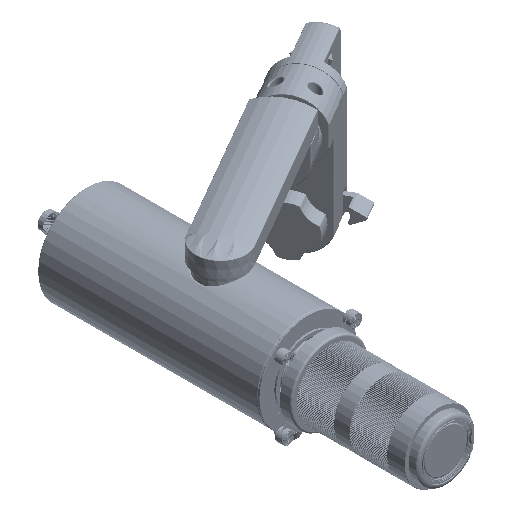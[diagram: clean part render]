
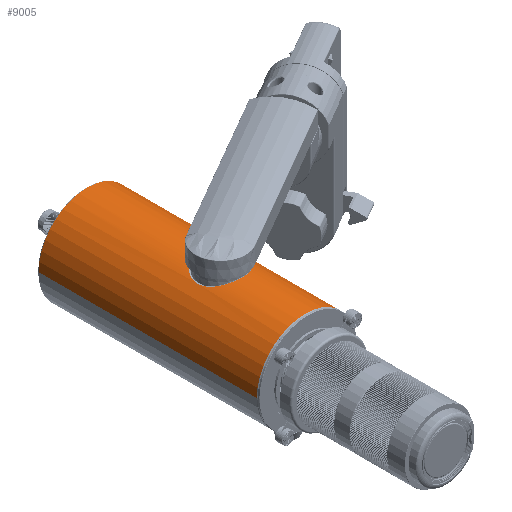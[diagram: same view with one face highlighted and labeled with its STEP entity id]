
A CAD part, isometric view. The second image highlights one B-rep face of the part: STEP entity #9005.
In plain terms, the highlighted cylindrical face has radius 27.5 mm (diameter 55 mm), a partial arc.
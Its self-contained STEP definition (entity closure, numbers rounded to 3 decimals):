
#2524=CARTESIAN_POINT('',(0.,123.5,0.));
#2525=DIRECTION('',(0.,1.,0.));
#2526=DIRECTION('',(-1.,0.,0.));
#2527=AXIS2_PLACEMENT_3D('',#2524,#2525,#2526);
#2529=CARTESIAN_POINT('',(0.,0.5,0.));
#2530=DIRECTION('',(0.,-1.,0.));
#2531=DIRECTION('',(1.,0.,0.));
#2532=AXIS2_PLACEMENT_3D('',#2529,#2530,#2531);
#2534=DIRECTION('',(0.,1.,0.));
#2535=VECTOR('',#2534,123.);
#2536=CARTESIAN_POINT('',(-27.5,0.5,0.));
#2537=LINE('',#2536,#2535);
#2538=CARTESIAN_POINT('',(12.731,48.5,24.375));
#2539=CARTESIAN_POINT('',(12.731,48.154,24.375));
#2540=CARTESIAN_POINT('',(12.702,47.47,24.391));
#2541=CARTESIAN_POINT('',(12.578,46.482,24.455));
#2542=CARTESIAN_POINT('',(12.372,45.496,24.56));
#2543=CARTESIAN_POINT('',(12.106,44.595,24.693));
#2544=CARTESIAN_POINT('',(11.771,43.702,24.855));
#2545=CARTESIAN_POINT('',(11.319,42.742,25.064));
#2546=CARTESIAN_POINT('',(10.726,41.728,25.326));
#2547=CARTESIAN_POINT('',(9.959,40.672,25.639));
#2548=CARTESIAN_POINT('',(8.972,39.587,26.004));
#2549=CARTESIAN_POINT('',(7.717,38.508,26.408));
#2550=CARTESIAN_POINT('',(6.137,37.489,26.827));
#2551=CARTESIAN_POINT('',(4.208,36.638,27.203));
#2552=CARTESIAN_POINT('',(2.069,36.103,27.451));
#2553=CARTESIAN_POINT('',(-0.129,35.938,
27.529));
#2554=CARTESIAN_POINT('',(-2.321,36.148,27.43));
#2555=CARTESIAN_POINT('',(-4.333,36.693,27.178));
#2556=CARTESIAN_POINT('',(-6.03,37.446,26.846));
#2557=CARTESIAN_POINT('',(-7.435,38.314,26.487));
#2558=CARTESIAN_POINT('',(-8.591,39.24,26.131));
#2559=CARTESIAN_POINT('',(-9.532,40.182,25.801));
#2560=CARTESIAN_POINT('',(-10.292,41.112,25.505));
#2561=CARTESIAN_POINT('',(-10.906,42.022,25.248));
#2562=CARTESIAN_POINT('',(-11.392,42.893,25.031));
#2563=CARTESIAN_POINT('',(-11.773,43.715,24.854));
#2564=CARTESIAN_POINT('',(-12.086,44.535,24.703));
#2565=CARTESIAN_POINT('',(-12.348,45.41,24.572));
#2566=CARTESIAN_POINT('',(-12.551,46.332,24.469));
#2567=CARTESIAN_POINT('',(-12.691,47.329,24.396));
#2568=CARTESIAN_POINT('',(-12.731,48.096,24.375));
#2569=CARTESIAN_POINT('',(-12.731,48.5,24.375));
#2571=CARTESIAN_POINT('',(-12.731,48.5,24.375));
#2572=CARTESIAN_POINT('',(-12.731,48.846,24.375));
#2573=CARTESIAN_POINT('',(-12.702,49.53,24.391));
#2574=CARTESIAN_POINT('',(-12.578,50.518,24.455));
#2575=CARTESIAN_POINT('',(-12.372,51.504,24.56));
#2576=CARTESIAN_POINT('',(-12.106,52.405,24.693));
#2577=CARTESIAN_POINT('',(-11.771,53.298,24.855));
#2578=CARTESIAN_POINT('',(-11.319,54.258,25.064));
#2579=CARTESIAN_POINT('',(-10.726,55.272,25.326));
#2580=CARTESIAN_POINT('',(-9.959,56.328,25.639));
#2581=CARTESIAN_POINT('',(-8.972,57.413,26.004));
#2582=CARTESIAN_POINT('',(-7.718,58.492,26.408));
#2583=CARTESIAN_POINT('',(-6.138,59.51,26.826));
#2584=CARTESIAN_POINT('',(-4.209,60.362,27.203));
#2585=CARTESIAN_POINT('',(-2.071,60.897,27.451));
#2586=CARTESIAN_POINT('',(0.127,61.062,27.529));
#2587=CARTESIAN_POINT('',(2.32,60.852,27.43));
#2588=CARTESIAN_POINT('',(4.331,60.308,27.179));
#2589=CARTESIAN_POINT('',(6.03,59.554,26.846));
#2590=CARTESIAN_POINT('',(7.435,58.686,26.487));
#2591=CARTESIAN_POINT('',(8.59,57.76,26.132));
#2592=CARTESIAN_POINT('',(9.531,56.818,25.801));
#2593=CARTESIAN_POINT('',(10.292,55.888,25.505));
#2594=CARTESIAN_POINT('',(10.905,54.978,25.248));
#2595=CARTESIAN_POINT('',(11.392,54.107,25.031));
#2596=CARTESIAN_POINT('',(11.773,53.286,24.854));
#2597=CARTESIAN_POINT('',(12.085,52.465,24.703));
#2598=CARTESIAN_POINT('',(12.348,51.59,24.572));
#2599=CARTESIAN_POINT('',(12.551,50.669,24.469));
#2600=CARTESIAN_POINT('',(12.691,49.671,24.396));
#2601=CARTESIAN_POINT('',(12.731,48.904,24.375));
#2602=CARTESIAN_POINT('',(12.731,48.5,24.375));
#4421=DIRECTION('',(0.,1.,0.));
#4422=VECTOR('',#4421,123.);
#4423=CARTESIAN_POINT('',(27.5,0.5,0.));
#4424=LINE('',#4423,#4422);
#4784=CARTESIAN_POINT('',(27.5,123.5,0.));
#4785=CARTESIAN_POINT('',(-27.5,123.5,0.));
#4786=VERTEX_POINT('',#4784);
#4787=VERTEX_POINT('',#4785);
#4792=CARTESIAN_POINT('',(-27.5,0.5,0.));
#4793=CARTESIAN_POINT('',(27.5,0.5,0.));
#4794=VERTEX_POINT('',#4792);
#4795=VERTEX_POINT('',#4793);
#4796=VERTEX_POINT('',#2538);
#4797=VERTEX_POINT('',#2569);
#8985=CARTESIAN_POINT('',(0.,0.,0.));
#8986=DIRECTION('',(0.,1.,0.));
#8987=DIRECTION('',(1.,0.,0.));
#8988=AXIS2_PLACEMENT_3D('',#8985,#8986,#8987);
#8989=CYLINDRICAL_SURFACE('',#8988,27.5);
#8991=ORIENTED_EDGE('',*,*,#8990,.T.);
#8993=ORIENTED_EDGE('',*,*,#8992,.F.);
#8995=ORIENTED_EDGE('',*,*,#8994,.T.);
#8997=ORIENTED_EDGE('',*,*,#8996,.T.);
#8998=EDGE_LOOP('',(#8991,#8993,#8995,#8997));
#8999=FACE_OUTER_BOUND('',#8998,.F.);
#9000=ORIENTED_EDGE('',*,*,#8968,.F.);
#9002=ORIENTED_EDGE('',*,*,#9001,.F.);
#9003=EDGE_LOOP('',(#9000,#9002));
#9004=FACE_BOUND('',#9003,.F.);
#2528=CIRCLE('',#2527,27.5);
#2533=CIRCLE('',#2532,27.5);
#2570=B_SPLINE_CURVE_WITH_KNOTS('',3,(#2538,#2539,#2540,#2541,#2542,#2543,#2544,
#2545,#2546,#2547,#2548,#2549,#2550,#2551,#2552,#2553,#2554,#2555,#2556,#2557,
#2558,#2559,#2560,#2561,#2562,#2563,#2564,#2565,#2566,#2567,#2568,#2569),
.UNSPECIFIED.,.F.,.F.,(4,1,1,1,1,1,1,1,1,1,1,1,1,1,1,1,1,1,1,1,1,1,1,1,1,1,1,1,
1,4),(0.,0.034,0.069,0.103,
0.138,0.172,0.207,0.241,
0.276,0.31,0.345,0.379,
0.414,0.448,0.483,0.517,
0.552,0.586,0.621,0.655,
0.69,0.724,0.759,0.793,
0.828,0.862,0.897,0.931,
0.966,1.),.UNSPECIFIED.);
#2603=B_SPLINE_CURVE_WITH_KNOTS('',3,(#2571,#2572,#2573,#2574,#2575,#2576,#2577,
#2578,#2579,#2580,#2581,#2582,#2583,#2584,#2585,#2586,#2587,#2588,#2589,#2590,
#2591,#2592,#2593,#2594,#2595,#2596,#2597,#2598,#2599,#2600,#2601,#2602),
.UNSPECIFIED.,.F.,.F.,(4,1,1,1,1,1,1,1,1,1,1,1,1,1,1,1,1,1,1,1,1,1,1,1,1,1,1,1,
1,4),(0.,0.034,0.069,0.103,
0.138,0.172,0.207,0.241,
0.276,0.31,0.345,0.379,
0.414,0.448,0.483,0.517,
0.552,0.586,0.621,0.655,
0.69,0.724,0.759,0.793,
0.828,0.862,0.897,0.931,
0.966,1.),.UNSPECIFIED.);
#8968=EDGE_CURVE('',#4796,#4797,#2570,.T.);
#8990=EDGE_CURVE('',#4787,#4786,#2528,.T.);
#8992=EDGE_CURVE('',#4795,#4786,#4424,.T.);
#8994=EDGE_CURVE('',#4795,#4794,#2533,.T.);
#8996=EDGE_CURVE('',#4794,#4787,#2537,.T.);
#9001=EDGE_CURVE('',#4797,#4796,#2603,.T.);
#9005=ADVANCED_FACE('',(#8999,#9004),#8989,.T.);
